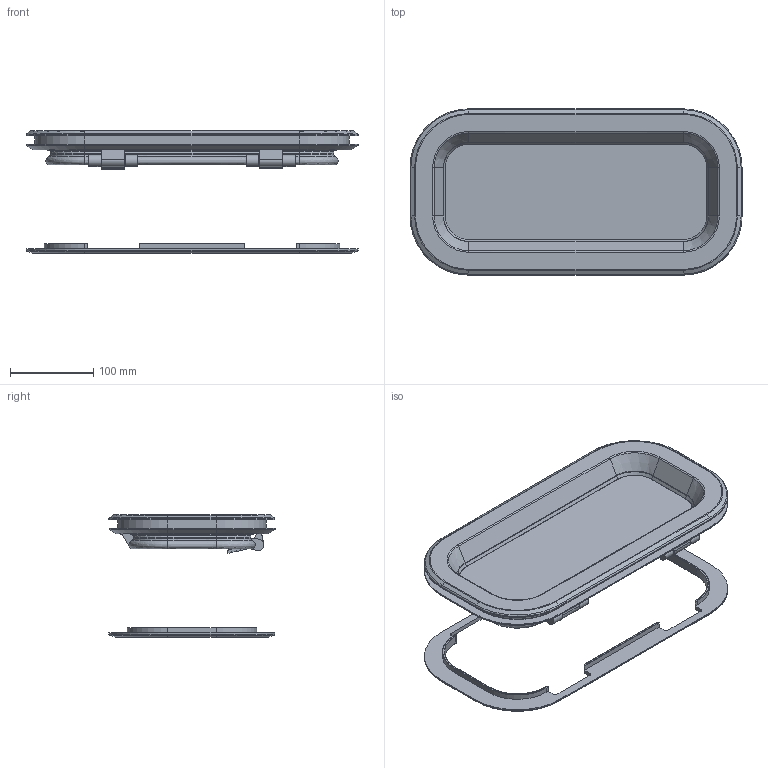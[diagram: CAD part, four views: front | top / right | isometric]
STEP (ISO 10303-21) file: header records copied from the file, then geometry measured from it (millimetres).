
FILE_DESCRIPTION((''),'2;1');
FILE_NAME('LEWMAR_PORTLIGHT_ATLANTIC_30_ASM','2008-02-29T',('skennedy'),(''),'PRO/ENGINEER BY PARAMETRIC TECHNOLOGY CORPORATION, 2007030','PRO/ENGINEER BY PARAMETRIC TECHNOLOGY CORPORATION, 2007030','');
FILE_SCHEMA(('CONFIG_CONTROL_DESIGN'));
Length unit declared in the file: millimetre
Products named in the file (7): 30_OUTER_FRAME; 30_THIN_VALANCE; 30_ACRYLIC_FRAME; ATLANTIC_PORTLIGHT_HANDLE; 30_THICK_VALANCE; 30_ACRYLIC; LEWMAR_PORTLIGHT_ATLANTIC_30_ASM
Assembly tree (7 placements, depth 2):
  LEWMAR_PORTLIGHT_ATLANTIC_30_ASM
    30_OUTER_FRAME
    30_THIN_VALANCE
    30_ACRYLIC_FRAME
    ATLANTIC_PORTLIGHT_HANDLE  x2
    30_THICK_VALANCE
    30_ACRYLIC
Bounding box: 400 x 200.13 x 147.27 mm (x, y, z)
Volume: 1286647.6 mm3; surface area: 387420.7 mm2
Topology: 7 solids, 7 shells, 850 faces, 2163 edges, 1371 vertices
Faces by surface type: plane 448, cylinder 192, bspline 174, cone 36
Entity records: 29560 total; most frequent: CARTESIAN_POINT 10307, ORIENTED_EDGE 4134, DIRECTION 3648, EDGE_CURVE 2067, VECTOR 1344, LINE 1344, VERTEX_POINT 1307, AXIS2_PLACEMENT_3D 1152
